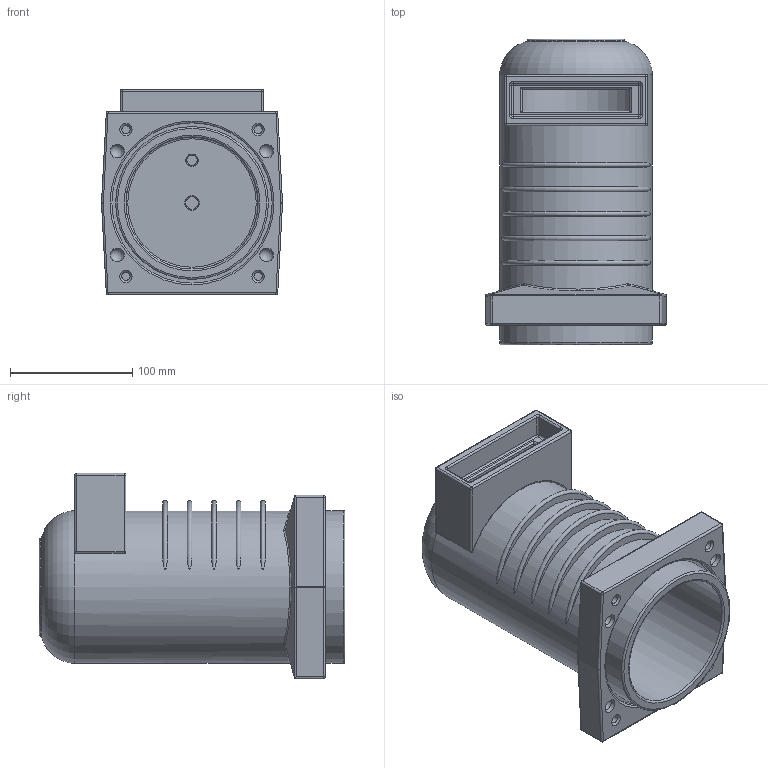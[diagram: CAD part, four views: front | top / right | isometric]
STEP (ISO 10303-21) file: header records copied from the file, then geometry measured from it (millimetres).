
FILE_DESCRIPTION(('STEP AP214'), '1');
FILE_NAME('ﾄ-ﾗﾝﾀﾇ-5-75-1000-ﾑ_25.12.2019 V16', '', ('UNSPECIFIED'), ('UNSPECIFIED'), 'ASCON STEP Converter 1.3', 'ASCON Math Kernel', '');
FILE_SCHEMA(('AUTOMOTIVE_DESIGN { 1 0 10303 214 3 1 1}'));
Length unit declared in the file: millimetre
Bounding box: 148 x 250 x 168 mm (x, y, z)
Volume: 1449796.8 mm3; surface area: 273109.2 mm2
Topology: 11 solids, 11 shells, 188 faces, 414 edges, 239 vertices
Faces by surface type: cylinder 68, plane 63, sphere 22, torus 22, bspline 7, cone 6
Full cylindrical faces by diameter (mm): 6.647 x4, 8.376 x1, 10.106 x1, 11.35 x4, 108 x1, 125 x2, 131 x1
Entity records: 8926 total; most frequent: CARTESIAN_POINT 3526, DIRECTION 804, ORIENTED_EDGE 720, EDGE_CURVE 360, AXIS2_PLACEMENT_3D 348, VERTEX_POINT 239, EDGE_LOOP 237, COLOUR_RGB 199
